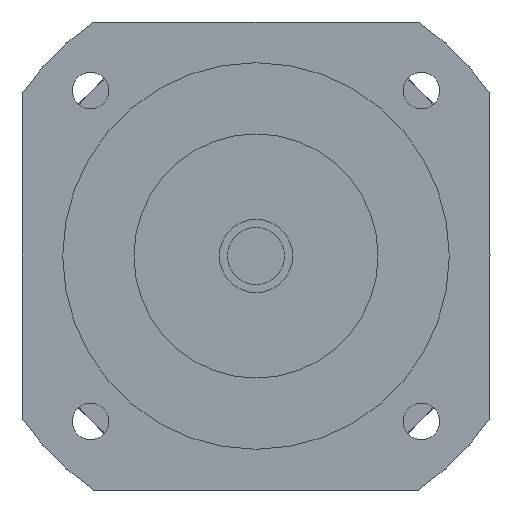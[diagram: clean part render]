
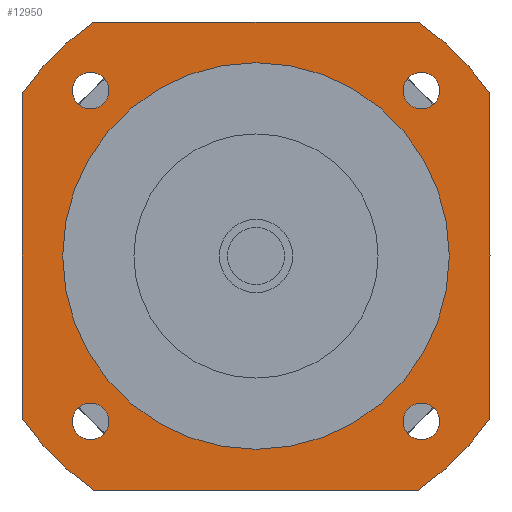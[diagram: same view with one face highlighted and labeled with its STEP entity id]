
A CAD part, left-side view. The second image highlights one B-rep face of the part: STEP entity #12950.
In plain terms, the highlighted planar face has unit normal (-1, 0, 0) as drawn and (0, 0, -1) by its records, which use the part's own axes.
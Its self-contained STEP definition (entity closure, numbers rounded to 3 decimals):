
#9180=CARTESIAN_POINT('',(57.5,39.922,-47.4));
#9190=VERTEX_POINT('',#9180);
#9240=CARTESIAN_POINT('',(57.5,57.5,-47.4));
#9250=DIRECTION('',(0.,-1.,0.));
#9260=VECTOR('',#9250,1000.);
#9270=LINE('',#9240,#9260);
#9280=CARTESIAN_POINT('',(57.5,-39.922,-47.4));
#9290=VERTEX_POINT('',#9280);
#9300=EDGE_CURVE('',#9190,#9290,#9270,.T.);
#11370=CARTESIAN_POINT('',(36.159,-40.659,-47.4));
#11380=VERTEX_POINT('',#11370);
#11410=CARTESIAN_POINT('',(40.659,-40.659,-47.4));
#11420=DIRECTION('',(0.,0.,-1.));
#11430=DIRECTION('',(1.,0.,0.));
#11440=AXIS2_PLACEMENT_3D('',#11410,#11420,#11430);
#11450=CIRCLE('',#11440,4.5);
#11460=CARTESIAN_POINT('',(45.159,-40.659,-47.4));
#11470=VERTEX_POINT('',#11460);
#11480=EDGE_CURVE('',#11470,#11380,#11450,.T.);
#11600=CARTESIAN_POINT('',(57.5,57.5,-47.4));
#11610=DIRECTION('',(0.,0.,-1.));
#11620=DIRECTION('',(1.,0.,0.));
#11630=AXIS2_PLACEMENT_3D('',#11600,#11610,#11620);
#11640=PLANE('',#11630);
#11650=CARTESIAN_POINT('',(-40.659,-40.659,-47.4));
#11660=DIRECTION('',(0.,0.,-1.));
#11670=DIRECTION('',(0.,-1.,0.));
#11680=AXIS2_PLACEMENT_3D('',#11650,#11660,#11670);
#11690=CIRCLE('',#11680,4.5);
#11700=CARTESIAN_POINT('',(-40.659,-45.159,-47.4));
#11710=VERTEX_POINT('',#11700);
#11720=CARTESIAN_POINT('',(-40.659,-36.159,-47.4));
#11730=VERTEX_POINT('',#11720);
#11740=EDGE_CURVE('',#11710,#11730,#11690,.T.);
#11750=ORIENTED_EDGE('',*,*,#11740,.F.);
#11760=EDGE_CURVE('',#11730,#11710,#11690,.T.);
#11770=ORIENTED_EDGE('',*,*,#11760,.F.);
#11780=EDGE_LOOP('',(#11770,#11750));
#11790=FACE_BOUND('',#11780,.T.);
#11800=CARTESIAN_POINT('',(-40.659,40.659,-47.4));
#11810=DIRECTION('',(0.,0.,-1.));
#11820=DIRECTION('',(-1.,0.,0.));
#11830=AXIS2_PLACEMENT_3D('',#11800,#11810,#11820);
#11840=CIRCLE('',#11830,4.5);
#11850=CARTESIAN_POINT('',(-45.159,40.659,-47.4));
#11860=VERTEX_POINT('',#11850);
#11870=CARTESIAN_POINT('',(-36.159,40.659,-47.4));
#11880=VERTEX_POINT('',#11870);
#11890=EDGE_CURVE('',#11860,#11880,#11840,.T.);
#11900=ORIENTED_EDGE('',*,*,#11890,.F.);
#11910=EDGE_CURVE('',#11880,#11860,#11840,.T.);
#11920=ORIENTED_EDGE('',*,*,#11910,.F.);
#11930=EDGE_LOOP('',(#11920,#11900));
#11940=FACE_BOUND('',#11930,.T.);
#11950=CARTESIAN_POINT('',(40.659,40.659,-47.4));
#11960=DIRECTION('',(0.,0.,-1.));
#11970=DIRECTION('',(0.,1.,0.));
#11980=AXIS2_PLACEMENT_3D('',#11950,#11960,#11970);
#11990=CIRCLE('',#11980,4.5);
#12000=CARTESIAN_POINT('',(40.659,45.159,-47.4));
#12010=VERTEX_POINT('',#12000);
#12020=CARTESIAN_POINT('',(40.659,36.159,-47.4));
#12030=VERTEX_POINT('',#12020);
#12040=EDGE_CURVE('',#12010,#12030,#11990,.T.);
#12050=ORIENTED_EDGE('',*,*,#12040,.F.);
#12060=EDGE_CURVE('',#12030,#12010,#11990,.T.);
#12070=ORIENTED_EDGE('',*,*,#12060,.F.);
#12080=EDGE_LOOP('',(#12070,#12050));
#12090=FACE_BOUND('',#12080,.T.);
#12100=CARTESIAN_POINT('',(0.,0.,
-47.4));
#12110=DIRECTION('',(0.,0.,1.));
#12120=DIRECTION('',(0.,1.,0.));
#12130=AXIS2_PLACEMENT_3D('',#12100,#12110,#12120);
#12140=CIRCLE('',#12130,47.5);
#12150=CARTESIAN_POINT('',(-47.5,0.,-47.4));
#12160=VERTEX_POINT('',#12150);
#12170=CARTESIAN_POINT('',(47.5,0.,-47.4));
#12180=VERTEX_POINT('',#12170);
#12190=EDGE_CURVE('',#12160,#12180,#12140,.T.);
#12200=ORIENTED_EDGE('',*,*,#12190,.T.);
#12210=CARTESIAN_POINT('',(0.,47.5,-47.4));
#12220=VERTEX_POINT('',#12210);
#12230=EDGE_CURVE('',#12220,#12160,#12140,.T.);
#12240=ORIENTED_EDGE('',*,*,#12230,.T.);
#12250=EDGE_CURVE('',#12180,#12220,#12140,.T.);
#12260=ORIENTED_EDGE('',*,*,#12250,.T.);
#12270=EDGE_LOOP('',(#12260,#12240,#12200));
#12280=FACE_BOUND('',#12270,.T.);
#12290=CARTESIAN_POINT('',(-57.5,57.5,-47.4));
#12300=DIRECTION('',(1.,0.,0.));
#12310=VECTOR('',#12300,1000.);
#12320=LINE('',#12290,#12310);
#12330=CARTESIAN_POINT('',(-39.922,57.5,-47.4));
#12340=VERTEX_POINT('',#12330);
#12350=CARTESIAN_POINT('',(39.922,57.5,-47.4));
#12360=VERTEX_POINT('',#12350);
#12370=EDGE_CURVE('',#12340,#12360,#12320,.T.);
#12380=ORIENTED_EDGE('',*,*,#12370,.T.);
#12390=CARTESIAN_POINT('',(0.,0.,
-47.4));
#12400=DIRECTION('',(0.,0.,-1.));
#12410=DIRECTION('',(1.,0.,0.));
#12420=AXIS2_PLACEMENT_3D('',#12390,#12400,#12410);
#12430=CIRCLE('',#12420,70.);
#12440=CARTESIAN_POINT('',(-57.5,39.922,-47.4));
#12450=VERTEX_POINT('',#12440);
#12460=EDGE_CURVE('',#12450,#12340,#12430,.T.);
#12470=ORIENTED_EDGE('',*,*,#12460,.T.);
#12480=CARTESIAN_POINT('',(-57.5,-57.5,-47.4));
#12490=DIRECTION('',(0.,1.,0.));
#12500=VECTOR('',#12490,1000.);
#12510=LINE('',#12480,#12500);
#12520=CARTESIAN_POINT('',(-57.5,-39.922,-47.4));
#12530=VERTEX_POINT('',#12520);
#12540=EDGE_CURVE('',#12530,#12450,#12510,.T.);
#12550=ORIENTED_EDGE('',*,*,#12540,.T.);
#12560=CARTESIAN_POINT('',(0.,0.,
-47.4));
#12570=DIRECTION('',(0.,0.,-1.));
#12580=DIRECTION('',(1.,0.,0.));
#12590=AXIS2_PLACEMENT_3D('',#12560,#12570,#12580);
#12600=CIRCLE('',#12590,70.);
#12610=CARTESIAN_POINT('',(-39.922,-57.5,-47.4));
#12620=VERTEX_POINT('',#12610);
#12630=EDGE_CURVE('',#12620,#12530,#12600,.T.);
#12640=ORIENTED_EDGE('',*,*,#12630,.T.);
#12650=CARTESIAN_POINT('',(57.5,-57.5,-47.4));
#12660=DIRECTION('',(-1.,0.,0.));
#12670=VECTOR('',#12660,1000.);
#12680=LINE('',#12650,#12670);
#12690=CARTESIAN_POINT('',(39.922,-57.5,-47.4));
#12700=VERTEX_POINT('',#12690);
#12710=EDGE_CURVE('',#12700,#12620,#12680,.T.);
#12720=ORIENTED_EDGE('',*,*,#12710,.T.);
#12730=CARTESIAN_POINT('',(0.,0.,
-47.4));
#12740=DIRECTION('',(0.,0.,-1.));
#12750=DIRECTION('',(1.,0.,0.));
#12760=AXIS2_PLACEMENT_3D('',#12730,#12740,#12750);
#12770=CIRCLE('',#12760,70.);
#12780=EDGE_CURVE('',#9290,#12700,#12770,.T.);
#12790=ORIENTED_EDGE('',*,*,#12780,.T.);
#12800=ORIENTED_EDGE('',*,*,#9300,.T.);
#12810=CARTESIAN_POINT('',(0.,0.,
-47.4));
#12820=DIRECTION('',(0.,0.,-1.));
#12830=DIRECTION('',(1.,0.,0.));
#12840=AXIS2_PLACEMENT_3D('',#12810,#12820,#12830);
#12850=CIRCLE('',#12840,70.);
#12860=EDGE_CURVE('',#12360,#9190,#12850,.T.);
#12870=ORIENTED_EDGE('',*,*,#12860,.T.);
#12880=EDGE_LOOP('',(#12870,#12800,#12790,#12720,#12640,#12550,#12470,
#12380));
#12890=FACE_OUTER_BOUND('',#12880,.T.);
#12900=ORIENTED_EDGE('',*,*,#11480,.F.);
#12910=EDGE_CURVE('',#11380,#11470,#11450,.T.);
#12920=ORIENTED_EDGE('',*,*,#12910,.F.);
#12930=EDGE_LOOP('',(#12920,#12900));
#12940=FACE_BOUND('',#12930,.T.);
#12950=ADVANCED_FACE('',(#11790,#11940,#12090,#12280,#12890,#12940),
#11640,.T.);
